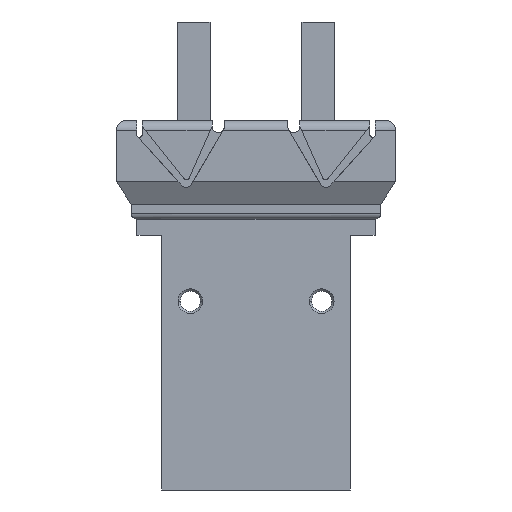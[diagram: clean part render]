
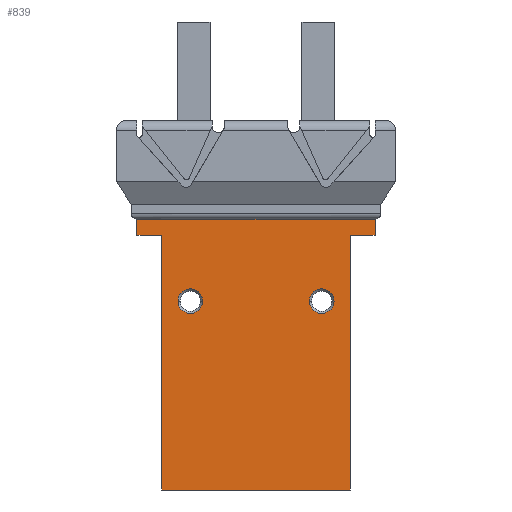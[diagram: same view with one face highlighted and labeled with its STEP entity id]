
A CAD part, front view. The second image highlights one B-rep face of the part: STEP entity #839.
In plain terms, the highlighted planar face has unit normal (0, -1, 0).
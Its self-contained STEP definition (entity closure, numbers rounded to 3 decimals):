
#67 = EDGE_CURVE ( 'NONE', #1047, #4528, #3773, .T. ) ;
#113 = LINE ( 'NONE', #5450, #3936 ) ;
#159 = FACE_OUTER_BOUND ( 'NONE', #3644, .T. ) ;
#203 = VERTEX_POINT ( 'NONE', #2751 ) ;
#368 = CARTESIAN_POINT ( 'NONE',  ( 14.5, -8.2, 31. ) ) ;
#442 = CARTESIAN_POINT ( 'NONE',  ( 8., -8.2, 23. ) ) ;
#479 = DIRECTION ( 'NONE',  ( -1., 0., 0. ) ) ;
#582 = EDGE_CURVE ( 'NONE', #5752, #810, #4071, .T. ) ;
#720 = CARTESIAN_POINT ( 'NONE',  ( -8., -8.2, 23. ) ) ;
#810 = VERTEX_POINT ( 'NONE', #3495 ) ;
#813 = AXIS2_PLACEMENT_3D ( 'NONE', #6726, #5106, #4087 ) ;
#825 = PLANE ( 'NONE',  #813 ) ;
#839 = ADVANCED_FACE ( 'NONE', ( #159, #3460, #5673 ), #825, .F. ) ;
#857 = CARTESIAN_POINT ( 'NONE',  ( 11.5, -8.2, 31. ) ) ;
#1042 = CARTESIAN_POINT ( 'NONE',  ( -11.5, -8.2, 31. ) ) ;
#1046 = DIRECTION ( 'NONE',  ( 0., 1., 0. ) ) ;
#1047 = VERTEX_POINT ( 'NONE', #1757 ) ;
#1059 = DIRECTION ( 'NONE',  ( 1., 0., 0. ) ) ;
#1300 = DIRECTION ( 'NONE',  ( -1., 0., 0. ) ) ;
#1336 = LINE ( 'NONE', #4448, #2142 ) ;
#1359 = AXIS2_PLACEMENT_3D ( 'NONE', #2049, #1046, #6436 ) ;
#1406 = EDGE_CURVE ( 'NONE', #1047, #3931, #6540, .T. ) ;
#1480 = ORIENTED_EDGE ( 'NONE', *, *, #582, .T. ) ;
#1495 = EDGE_CURVE ( 'NONE', #810, #5752, #1862, .T. ) ;
#1713 = CARTESIAN_POINT ( 'NONE',  ( -11.5, -8.2, 0. ) ) ;
#1757 = CARTESIAN_POINT ( 'NONE',  ( -11.5, -8.2, 31. ) ) ;
#1808 = VERTEX_POINT ( 'NONE', #2074 ) ;
#1862 = CIRCLE ( 'NONE', #3092, 1.5 ) ;
#1923 = VECTOR ( 'NONE', #6939, 1000. ) ;
#1978 = EDGE_CURVE ( 'NONE', #2974, #1808, #113, .T. ) ;
#2049 = CARTESIAN_POINT ( 'NONE',  ( -8., -8.2, 23. ) ) ;
#2056 = DIRECTION ( 'NONE',  ( 0., 1., 0. ) ) ;
#2074 = CARTESIAN_POINT ( 'NONE',  ( 14.5, -8.2, 31. ) ) ;
#2142 = VECTOR ( 'NONE', #5005, 1000. ) ;
#2300 = ORIENTED_EDGE ( 'NONE', *, *, #1978, .F. ) ;
#2360 = DIRECTION ( 'NONE',  ( -1., 0., 0. ) ) ;
#2361 = CIRCLE ( 'NONE', #6884, 1.5 ) ;
#2483 = ORIENTED_EDGE ( 'NONE', *, *, #5815, .T. ) ;
#2517 = CARTESIAN_POINT ( 'NONE',  ( 11.5, -8.2, 0. ) ) ;
#2626 = CARTESIAN_POINT ( 'NONE',  ( 9.5, -8.2, 23. ) ) ;
#2722 = ORIENTED_EDGE ( 'NONE', *, *, #1406, .T. ) ;
#2751 = CARTESIAN_POINT ( 'NONE',  ( 11.5, -8.2, 31. ) ) ;
#2834 = ORIENTED_EDGE ( 'NONE', *, *, #4603, .T. ) ;
#2849 = EDGE_LOOP ( 'NONE', ( #6937, #5089 ) ) ;
#2960 = VECTOR ( 'NONE', #479, 1000. ) ;
#2965 = ORIENTED_EDGE ( 'NONE', *, *, #4342, .F. ) ;
#2974 = VERTEX_POINT ( 'NONE', #6255 ) ;
#3092 = AXIS2_PLACEMENT_3D ( 'NONE', #720, #4020, #2360 ) ;
#3199 = DIRECTION ( 'NONE',  ( 0., 0., -1. ) ) ;
#3460 = FACE_BOUND ( 'NONE', #4684, .T. ) ;
#3479 = VERTEX_POINT ( 'NONE', #5547 ) ;
#3495 = CARTESIAN_POINT ( 'NONE',  ( -9.5, -8.2, 23. ) ) ;
#3644 = EDGE_LOOP ( 'NONE', ( #2483, #4949, #2722, #2834, #5023, #2965, #2300, #6531 ) ) ;
#3707 = DIRECTION ( 'NONE',  ( -1., 0., 0. ) ) ;
#3752 = LINE ( 'NONE', #5333, #2960 ) ;
#3773 = LINE ( 'NONE', #368, #6411 ) ;
#3777 = VERTEX_POINT ( 'NONE', #2626 ) ;
#3784 = LINE ( 'NONE', #6452, #4658 ) ;
#3913 = CARTESIAN_POINT ( 'NONE',  ( -14.5, -8.2, 33. ) ) ;
#3931 = VERTEX_POINT ( 'NONE', #1713 ) ;
#3936 = VECTOR ( 'NONE', #5593, 1000. ) ;
#3951 = DIRECTION ( 'NONE',  ( 0., 1., 0. ) ) ;
#4020 = DIRECTION ( 'NONE',  ( 0., 1., 0. ) ) ;
#4071 = CIRCLE ( 'NONE', #1359, 1.5 ) ;
#4087 = DIRECTION ( 'NONE',  ( 1., 0., 0. ) ) ;
#4198 = VERTEX_POINT ( 'NONE', #2517 ) ;
#4210 = ORIENTED_EDGE ( 'NONE', *, *, #1495, .T. ) ;
#4263 = EDGE_CURVE ( 'NONE', #5717, #2974, #3784, .T. ) ;
#4342 = EDGE_CURVE ( 'NONE', #1808, #203, #3752, .T. ) ;
#4448 = CARTESIAN_POINT ( 'NONE',  ( -14.5, -8.2, 43.8 ) ) ;
#4528 = VERTEX_POINT ( 'NONE', #5087 ) ;
#4603 = EDGE_CURVE ( 'NONE', #3931, #4198, #4764, .T. ) ;
#4658 = VECTOR ( 'NONE', #1059, 1000. ) ;
#4684 = EDGE_LOOP ( 'NONE', ( #1480, #4210 ) ) ;
#4730 = CARTESIAN_POINT ( 'NONE',  ( -11.5, -8.2, 0. ) ) ;
#4764 = LINE ( 'NONE', #4730, #1923 ) ;
#4844 = AXIS2_PLACEMENT_3D ( 'NONE', #6616, #3951, #1300 ) ;
#4949 = ORIENTED_EDGE ( 'NONE', *, *, #67, .F. ) ;
#5005 = DIRECTION ( 'NONE',  ( 0., 0., -1. ) ) ;
#5023 = ORIENTED_EDGE ( 'NONE', *, *, #6996, .F. ) ;
#5064 = CIRCLE ( 'NONE', #4844, 1.5 ) ;
#5087 = CARTESIAN_POINT ( 'NONE',  ( -14.5, -8.2, 31. ) ) ;
#5089 = ORIENTED_EDGE ( 'NONE', *, *, #5765, .T. ) ;
#5100 = DIRECTION ( 'NONE',  ( 0., 0., -1. ) ) ;
#5103 = CARTESIAN_POINT ( 'NONE',  ( -6.5, -8.2, 23. ) ) ;
#5106 = DIRECTION ( 'NONE',  ( 0., 1., 0. ) ) ;
#5240 = EDGE_CURVE ( 'NONE', #3777, #3479, #2361, .T. ) ;
#5333 = CARTESIAN_POINT ( 'NONE',  ( 14.5, -8.2, 31. ) ) ;
#5450 = CARTESIAN_POINT ( 'NONE',  ( 14.5, -8.2, 43.8 ) ) ;
#5547 = CARTESIAN_POINT ( 'NONE',  ( 6.5, -8.2, 23. ) ) ;
#5593 = DIRECTION ( 'NONE',  ( 0., 0., -1. ) ) ;
#5673 = FACE_BOUND ( 'NONE', #2849, .T. ) ;
#5717 = VERTEX_POINT ( 'NONE', #3913 ) ;
#5752 = VERTEX_POINT ( 'NONE', #5103 ) ;
#5765 = EDGE_CURVE ( 'NONE', #3479, #3777, #5064, .T. ) ;
#5798 = VECTOR ( 'NONE', #3199, 1000. ) ;
#5815 = EDGE_CURVE ( 'NONE', #5717, #4528, #1336, .T. ) ;
#6255 = CARTESIAN_POINT ( 'NONE',  ( 14.5, -8.2, 33. ) ) ;
#6282 = LINE ( 'NONE', #857, #6295 ) ;
#6295 = VECTOR ( 'NONE', #5100, 1000. ) ;
#6411 = VECTOR ( 'NONE', #3707, 1000. ) ;
#6436 = DIRECTION ( 'NONE',  ( -1., 0., 0. ) ) ;
#6452 = CARTESIAN_POINT ( 'NONE',  ( -11.5, -8.2, 33. ) ) ;
#6531 = ORIENTED_EDGE ( 'NONE', *, *, #4263, .F. ) ;
#6540 = LINE ( 'NONE', #1042, #5798 ) ;
#6616 = CARTESIAN_POINT ( 'NONE',  ( 8., -8.2, 23. ) ) ;
#6726 = CARTESIAN_POINT ( 'NONE',  ( -11.5, -8.2, 31. ) ) ;
#6876 = DIRECTION ( 'NONE',  ( -1., 0., 0. ) ) ;
#6884 = AXIS2_PLACEMENT_3D ( 'NONE', #442, #2056, #6876 ) ;
#6937 = ORIENTED_EDGE ( 'NONE', *, *, #5240, .T. ) ;
#6939 = DIRECTION ( 'NONE',  ( 1., 0., 0. ) ) ;
#6996 = EDGE_CURVE ( 'NONE', #203, #4198, #6282, .T. ) ;
